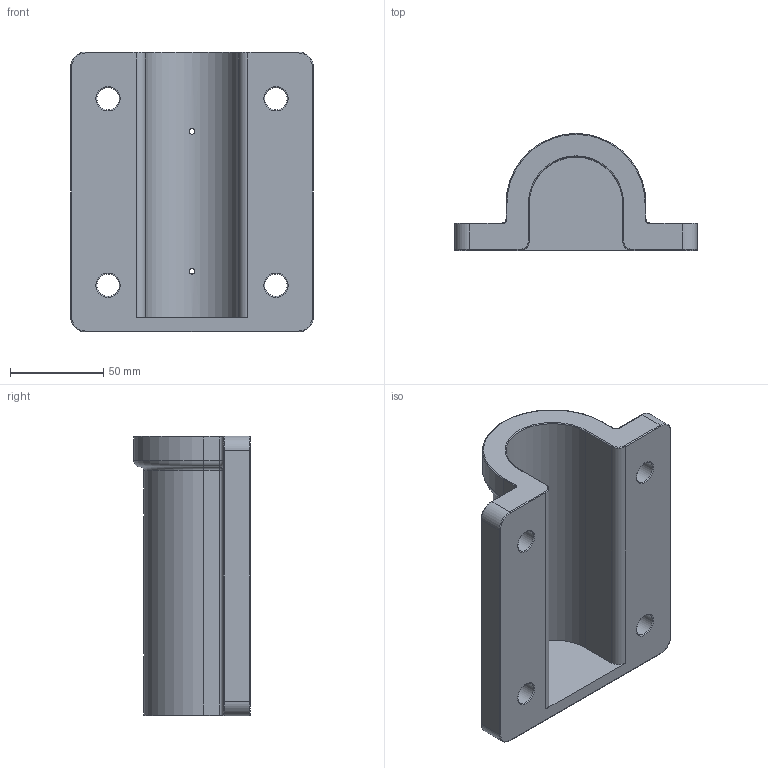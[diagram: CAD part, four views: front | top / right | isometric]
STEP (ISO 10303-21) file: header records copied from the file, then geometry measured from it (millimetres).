
FILE_DESCRIPTION(/* description */ ('Wall Mount VER25-Y'),/* implementation_level */ '2;1');
FILE_NAME(/* name */ 'W:\8 Drafting Support\3 Product Drawings\Handrails\3D Models\Handrail Fittings STEP\MH1-Wall Mount.stp',/* time_stamp */ '2024-11-14T13:47:52+10:00',/* author */ ('Callum'),/* organization */ (''),/* preprocessor_version */ 'ST-DEVELOPER v18.1',/* originating_system */ 'Autodesk Inventor 2022',/* authorisation */ '');
FILE_SCHEMA (('AUTOMOTIVE_DESIGN { 1 0 10303 214 3 1 1 }'));
Length unit declared in the file: millimetre
Products named in the file (1): MH1-Wall Mount-Y
Bounding box: 130 x 62.5 x 150 mm (x, y, z)
Volume: 309553.6 mm3; surface area: 72592.6 mm2
Topology: 1 solids, 1 shells, 85 faces, 203 edges, 120 vertices
Faces by surface type: cylinder 40, torus 29, plane 14, sphere 2
Full cylindrical faces by diameter (mm): 3 x2, 12 x4
Entity records: 2660 total; most frequent: CARTESIAN_POINT 543, DIRECTION 491, ORIENTED_EDGE 406, AXIS2_PLACEMENT_3D 208, EDGE_CURVE 203, CIRCLE 122, VERTEX_POINT 120, EDGE_LOOP 97
